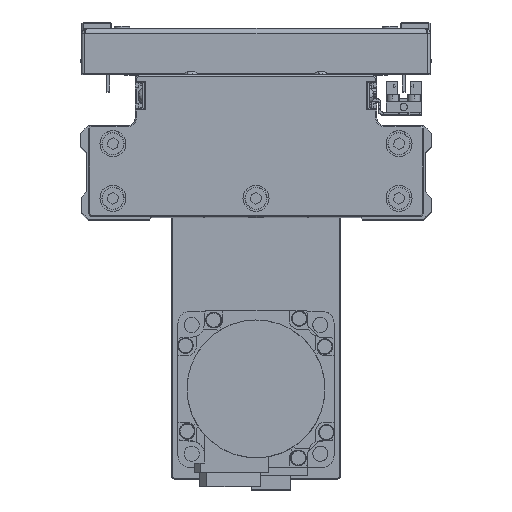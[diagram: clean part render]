
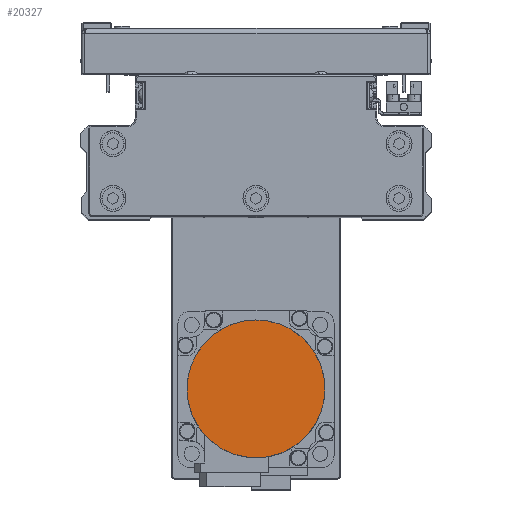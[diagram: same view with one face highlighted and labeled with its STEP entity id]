
A CAD part, top view. The second image highlights one B-rep face of the part: STEP entity #20327.
In plain terms, the highlighted planar face has unit normal (0, 0, 1) as drawn and (0, 0, -1) by its records, which use the part's own axes.
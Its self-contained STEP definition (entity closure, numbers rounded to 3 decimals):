
#714 = CARTESIAN_POINT ( 'NONE',  ( 16.165, 21.07, -109.7 ) ) ;
#926 = CARTESIAN_POINT ( 'NONE',  ( -16.165, 21.07, -109.7 ) ) ;
#2506 = CARTESIAN_POINT ( 'NONE',  ( -23.819, -11.744, -109.7 ) ) ;
#2720 = CARTESIAN_POINT ( 'NONE',  ( 3.469, -26.329, -109.7 ) ) ;
#2927 = CARTESIAN_POINT ( 'NONE',  ( 26.329, -3.469, -109.7 ) ) ;
#3868 = ORIENTED_EDGE ( 'NONE', *, *, #36342, .F. ) ;
#3991 = CARTESIAN_POINT ( 'NONE',  ( 21.07, 16.165, -109.7 ) ) ;
#4200 = CARTESIAN_POINT ( 'NONE',  ( -8.539, 25.147, -109.7 ) ) ;
#4417 = CARTESIAN_POINT ( 'NONE',  ( -26.5, 0., -109.7 ) ) ;
#5775 = CARTESIAN_POINT ( 'NONE',  ( -26.329, -3.469, -109.7 ) ) ;
#5996 = CARTESIAN_POINT ( 'NONE',  ( -3.469, -26.329, -109.7 ) ) ;
#6211 = CARTESIAN_POINT ( 'NONE',  ( 23.819, -11.744, -109.7 ) ) ;
#7262 = CARTESIAN_POINT ( 'NONE',  ( 25.147, 8.539, -109.7 ) ) ;
#7484 = CARTESIAN_POINT ( 'NONE',  ( -1.734, 26.5, -109.7 ) ) ;
#7693 = CARTESIAN_POINT ( 'NONE',  ( -25.652, 6.871, -109.7 ) ) ;
#9259 = CARTESIAN_POINT ( 'NONE',  ( -11.744, -23.819, -109.7 ) ) ;
#9489 = CARTESIAN_POINT ( 'NONE',  ( 19.965, -17.512, -109.7 ) ) ;
#9785 = B_SPLINE_CURVE_WITH_KNOTS ( 'NONE', 3,
 ( #40486, #10537, #23871, #37213, #7262, #20609, #33921, #3991, #17339, #30637, #714, #14040, #27360, #40703, #10763, #24107, #37439, #7484, #20823, #34139, #4200, #17553, #30855, #926, #14267, #27592, #40933, #10990, #24323, #37653, #7693, #21040, #34356, #4417 ),
 .UNSPECIFIED., .F., .F.,
 ( 4, 2, 2, 2, 2, 2, 2, 2, 2, 2, 2, 2, 2, 2, 2, 2, 4 ),
 ( 0., 0.062, 0.125, 0.187, 0.25, 0.312, 0.375, 0.437, 0.5, 0.562, 0.625, 0.687, 0.75, 0.813, 0.875, 0.938, 1. ),
 .UNSPECIFIED. ) ;
#10537 = CARTESIAN_POINT ( 'NONE',  ( 26.5, 1.734, -109.7 ) ) ;
#10763 = CARTESIAN_POINT ( 'NONE',  ( 6.871, 25.652, -109.7 ) ) ;
#10990 = CARTESIAN_POINT ( 'NONE',  ( -22.998, 13.28, -109.7 ) ) ;
#11319 = ORIENTED_EDGE ( 'NONE', *, *, #19889, .F. ) ;
#12552 = CARTESIAN_POINT ( 'NONE',  ( -17.512, -19.965, -109.7 ) ) ;
#12713 = DIRECTION ( 'NONE',  ( 0., 0., 1. ) ) ;
#12766 = CARTESIAN_POINT ( 'NONE',  ( 13.28, -22.998, -109.7 ) ) ;
#14040 = CARTESIAN_POINT ( 'NONE',  ( 13.28, 22.998, -109.7 ) ) ;
#14267 = CARTESIAN_POINT ( 'NONE',  ( -17.512, 19.965, -109.7 ) ) ;
#15845 = CARTESIAN_POINT ( 'NONE',  ( -22.998, -13.28, -109.7 ) ) ;
#16000 = FACE_OUTER_BOUND ( 'NONE', #23889, .T. ) ;
#16051 = CARTESIAN_POINT ( 'NONE',  ( 6.871, -25.652, -109.7 ) ) ;
#16266 = CARTESIAN_POINT ( 'NONE',  ( 26.5, -1.734, -109.7 ) ) ;
#17339 = CARTESIAN_POINT ( 'NONE',  ( 19.965, 17.512, -109.7 ) ) ;
#17553 = CARTESIAN_POINT ( 'NONE',  ( -11.744, 23.819, -109.7 ) ) ;
#19129 = CARTESIAN_POINT ( 'NONE',  ( -25.652, -6.871, -109.7 ) ) ;
#19352 = CARTESIAN_POINT ( 'NONE',  ( -1.734, -26.5, -109.7 ) ) ;
#19564 = CARTESIAN_POINT ( 'NONE',  ( 25.147, -8.539, -109.7 ) ) ;
#19889 = EDGE_CURVE ( 'NONE', #23113, #23202, #35969, .T. ) ;
#20327 = ADVANCED_FACE ( 'NONE', ( #16000 ), #29321, .F. ) ;
#20609 = CARTESIAN_POINT ( 'NONE',  ( 23.819, 11.744, -109.7 ) ) ;
#20823 = CARTESIAN_POINT ( 'NONE',  ( -3.469, 26.329, -109.7 ) ) ;
#21040 = CARTESIAN_POINT ( 'NONE',  ( -26.329, 3.469, -109.7 ) ) ;
#22388 = CARTESIAN_POINT ( 'NONE',  ( -26.5, 0., -109.7 ) ) ;
#22605 = CARTESIAN_POINT ( 'NONE',  ( -8.539, -25.147, -109.7 ) ) ;
#22828 = CARTESIAN_POINT ( 'NONE',  ( 21.07, -16.165, -109.7 ) ) ;
#23113 = VERTEX_POINT ( 'NONE', #34957 ) ;
#23202 = VERTEX_POINT ( 'NONE', #25747 ) ;
#23871 = CARTESIAN_POINT ( 'NONE',  ( 26.329, 3.469, -109.7 ) ) ;
#23889 = EDGE_LOOP ( 'NONE', ( #3868, #11319 ) ) ;
#24107 = CARTESIAN_POINT ( 'NONE',  ( 3.469, 26.329, -109.7 ) ) ;
#24323 = CARTESIAN_POINT ( 'NONE',  ( -23.819, 11.744, -109.7 ) ) ;
#25747 = CARTESIAN_POINT ( 'NONE',  ( 26.5, 0., -109.7 ) ) ;
#25872 = CARTESIAN_POINT ( 'NONE',  ( -16.165, -21.07, -109.7 ) ) ;
#26035 = DIRECTION ( 'NONE',  ( 1., 0., 0. ) ) ;
#26085 = CARTESIAN_POINT ( 'NONE',  ( 16.165, -21.07, -109.7 ) ) ;
#27360 = CARTESIAN_POINT ( 'NONE',  ( 11.744, 23.819, -109.7 ) ) ;
#27592 = CARTESIAN_POINT ( 'NONE',  ( -19.965, 17.512, -109.7 ) ) ;
#28099 = AXIS2_PLACEMENT_3D ( 'NONE', #42669, #12713, #26035 ) ;
#29167 = CARTESIAN_POINT ( 'NONE',  ( -21.07, -16.165, -109.7 ) ) ;
#29321 = PLANE ( 'NONE',  #28099 ) ;
#29370 = CARTESIAN_POINT ( 'NONE',  ( 8.539, -25.147, -109.7 ) ) ;
#29585 = CARTESIAN_POINT ( 'NONE',  ( 26.5, 0., -109.7 ) ) ;
#30637 = CARTESIAN_POINT ( 'NONE',  ( 17.512, 19.965, -109.7 ) ) ;
#30855 = CARTESIAN_POINT ( 'NONE',  ( -13.28, 22.998, -109.7 ) ) ;
#32434 = CARTESIAN_POINT ( 'NONE',  ( -25.147, -8.539, -109.7 ) ) ;
#32654 = CARTESIAN_POINT ( 'NONE',  ( 1.734, -26.5, -109.7 ) ) ;
#32866 = CARTESIAN_POINT ( 'NONE',  ( 25.652, -6.871, -109.7 ) ) ;
#33921 = CARTESIAN_POINT ( 'NONE',  ( 22.998, 13.28, -109.7 ) ) ;
#34139 = CARTESIAN_POINT ( 'NONE',  ( -6.871, 25.652, -109.7 ) ) ;
#34356 = CARTESIAN_POINT ( 'NONE',  ( -26.5, 1.734, -109.7 ) ) ;
#34957 = CARTESIAN_POINT ( 'NONE',  ( -26.5, 0., -109.7 ) ) ;
#35710 = CARTESIAN_POINT ( 'NONE',  ( -26.5, -1.734, -109.7 ) ) ;
#35941 = CARTESIAN_POINT ( 'NONE',  ( -6.871, -25.652, -109.7 ) ) ;
#35969 = B_SPLINE_CURVE_WITH_KNOTS ( 'NONE', 3,
 ( #22388, #35710, #5775, #19129, #32434, #2506, #15845, #29167, #42507, #12552, #25872, #39219, #9259, #22605, #35941, #5996, #19352, #32654, #2720, #16051, #29370, #42718, #12766, #26085, #39445, #9489, #22828, #36164, #6211, #19564, #32866, #2927, #16266, #29585 ),
 .UNSPECIFIED., .F., .F.,
 ( 4, 2, 2, 2, 2, 2, 2, 2, 2, 2, 2, 2, 2, 2, 2, 2, 4 ),
 ( 0., 0.063, 0.125, 0.188, 0.25, 0.312, 0.375, 0.437, 0.5, 0.562, 0.625, 0.687, 0.75, 0.813, 0.875, 0.938, 1. ),
 .UNSPECIFIED. ) ;
#36164 = CARTESIAN_POINT ( 'NONE',  ( 22.998, -13.28, -109.7 ) ) ;
#36342 = EDGE_CURVE ( 'NONE', #23202, #23113, #9785, .T. ) ;
#37213 = CARTESIAN_POINT ( 'NONE',  ( 25.652, 6.871, -109.7 ) ) ;
#37439 = CARTESIAN_POINT ( 'NONE',  ( 1.734, 26.5, -109.7 ) ) ;
#37653 = CARTESIAN_POINT ( 'NONE',  ( -25.147, 8.539, -109.7 ) ) ;
#39219 = CARTESIAN_POINT ( 'NONE',  ( -13.28, -22.998, -109.7 ) ) ;
#39445 = CARTESIAN_POINT ( 'NONE',  ( 17.512, -19.965, -109.7 ) ) ;
#40486 = CARTESIAN_POINT ( 'NONE',  ( 26.5, 0., -109.7 ) ) ;
#40703 = CARTESIAN_POINT ( 'NONE',  ( 8.539, 25.147, -109.7 ) ) ;
#40933 = CARTESIAN_POINT ( 'NONE',  ( -21.07, 16.165, -109.7 ) ) ;
#42507 = CARTESIAN_POINT ( 'NONE',  ( -19.965, -17.512, -109.7 ) ) ;
#42669 = CARTESIAN_POINT ( 'NONE',  ( 0., 0., -109.7 ) ) ;
#42718 = CARTESIAN_POINT ( 'NONE',  ( 11.744, -23.819, -109.7 ) ) ;
